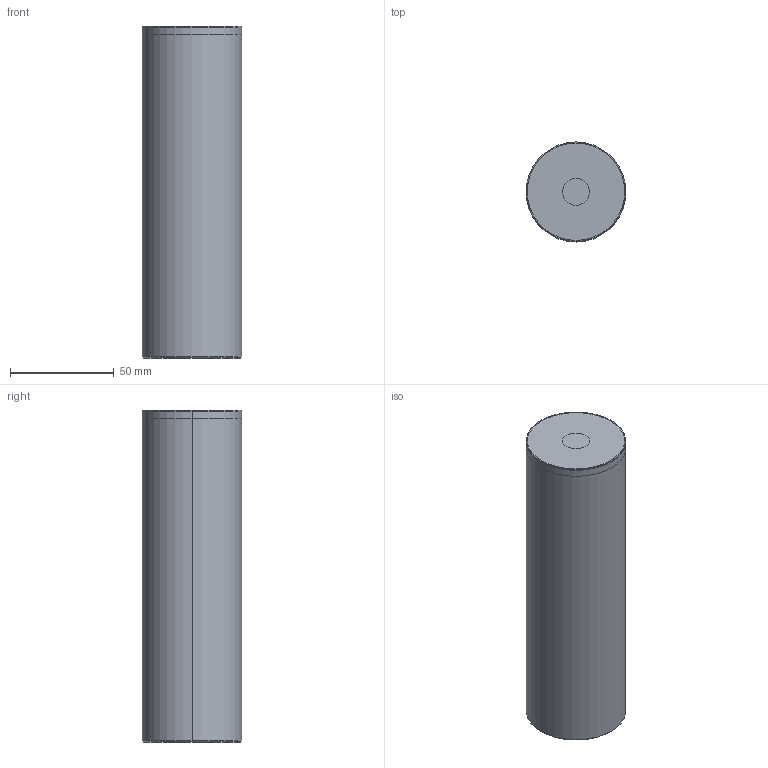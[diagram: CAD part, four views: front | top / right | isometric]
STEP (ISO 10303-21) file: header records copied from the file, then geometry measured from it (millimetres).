
FILE_DESCRIPTION (( 'STEP AP214' ), '1' );
FILE_NAME ('BruyRubio_BRSP_48_X_160.STEP', '2020-01-15T09:37:26', ( '' ), ( '' ), 'SwSTEP 2.0', 'SolidWorks 2017', '' );
FILE_SCHEMA (( 'AUTOMOTIVE_DESIGN' ));
Length unit declared in the file: millimetre
Products named in the file (3): BruyRubio_BRSP_48_X_160; BRSP 48 X 160_30a80f; Einbauraum_4b6e97
Assembly tree (2 placements, depth 2):
  BruyRubio_BRSP_48_X_160
    Einbauraum_4b6e97
    BRSP 48 X 160_30a80f
Bounding box: 48 x 48 x 160.07 mm (x, y, z)
Volume: 272958.4 mm3; surface area: 38432.9 mm2
Topology: 2 solids, 2 shells, 17 faces, 32 edges, 20 vertices
Faces by surface type: cylinder 8, plane 5, cone 4
Entity records: 735 total; most frequent: DIRECTION 96, CARTESIAN_POINT 74, ORIENTED_EDGE 64, AXIS2_PLACEMENT_3D 42, EDGE_CURVE 32, UNCERTAINTY_MEASURE_WITH_UNIT 24, COLOUR_RGB 21, MECHANICAL_DESIGN_GEOMETRIC_PRESENTATION_REPRESENTATION 21
